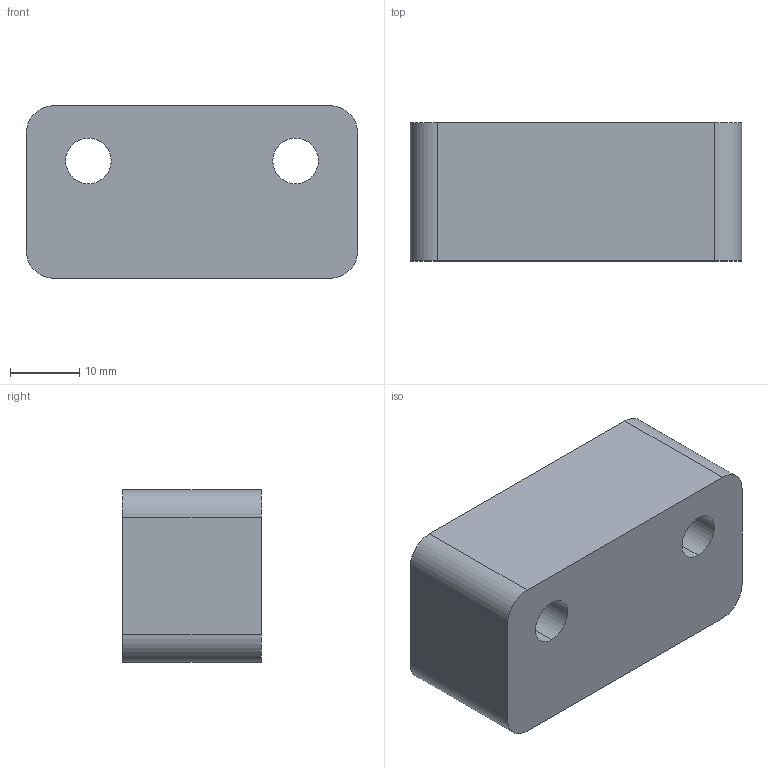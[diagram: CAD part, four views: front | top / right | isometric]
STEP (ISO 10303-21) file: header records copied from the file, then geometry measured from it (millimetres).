
FILE_DESCRIPTION (( 'STEP AP214' ), '1' );
FILE_NAME ('AGZ061.09_V1垫板卡槽.STEP', '2021-09-24T05:44:27', ( '微软中国' ), ( 'Microsoft' ), 'SwSTEP 2.0', 'SolidWorks 2017', '' );
FILE_SCHEMA (( 'AUTOMOTIVE_DESIGN' ));
Length unit declared in the file: millimetre
Products named in the file (1): AGZ061.09_V1菜啣縐羞
Bounding box: 48 x 20 x 25 mm (x, y, z)
Volume: 18695.8 mm3; surface area: 6243.4 mm2
Topology: 1 solids, 1 shells, 31 faces, 77 edges, 50 vertices
Faces by surface type: plane 15, cylinder 14, cone 2
Entity records: 971 total; most frequent: DIRECTION 171, CARTESIAN_POINT 159, ORIENTED_EDGE 154, EDGE_CURVE 77, AXIS2_PLACEMENT_3D 62, VERTEX_POINT 50, LINE 47, VECTOR 47
